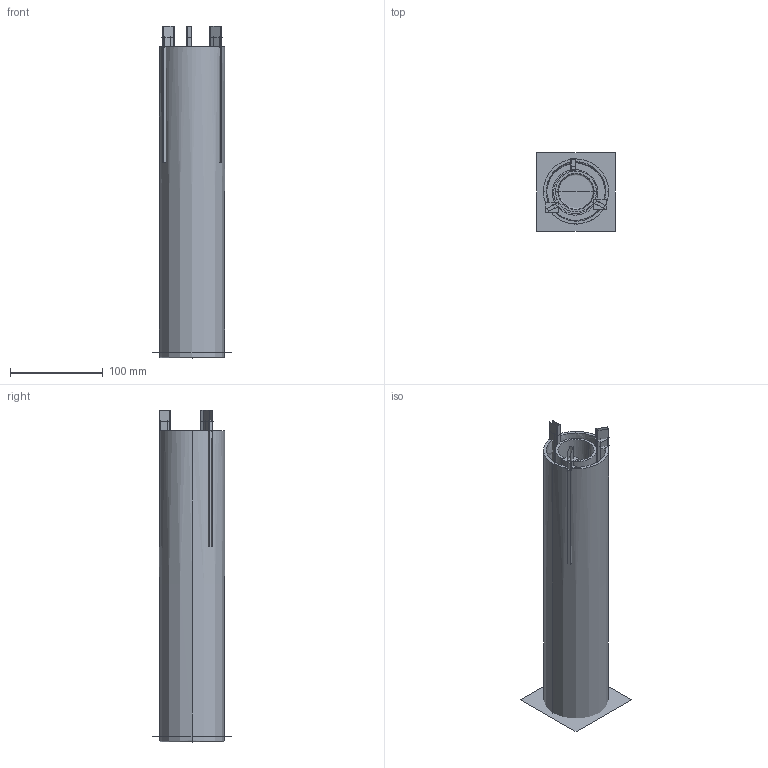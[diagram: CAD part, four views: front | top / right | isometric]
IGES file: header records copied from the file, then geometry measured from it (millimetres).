
Global section: file name: C:\Users\utente\Desktop\3d sito\STROMBOLI\stromboli.igs; native system: Rhinoceros ( Mar  9 2011 ); preprocessor: Trout Lake IGES 012 Mar  9 2011; date: 170531.171158; units: millimetre
Bounding box: 84 x 84 x 357.18 mm (x, y, z)
Surface area: 206976.9 mm2 (no closed solid volume)
Topology: 0 solids, 0 shells, 47 faces, 188 edges, 176 vertices
Faces by surface type: bspline 47
